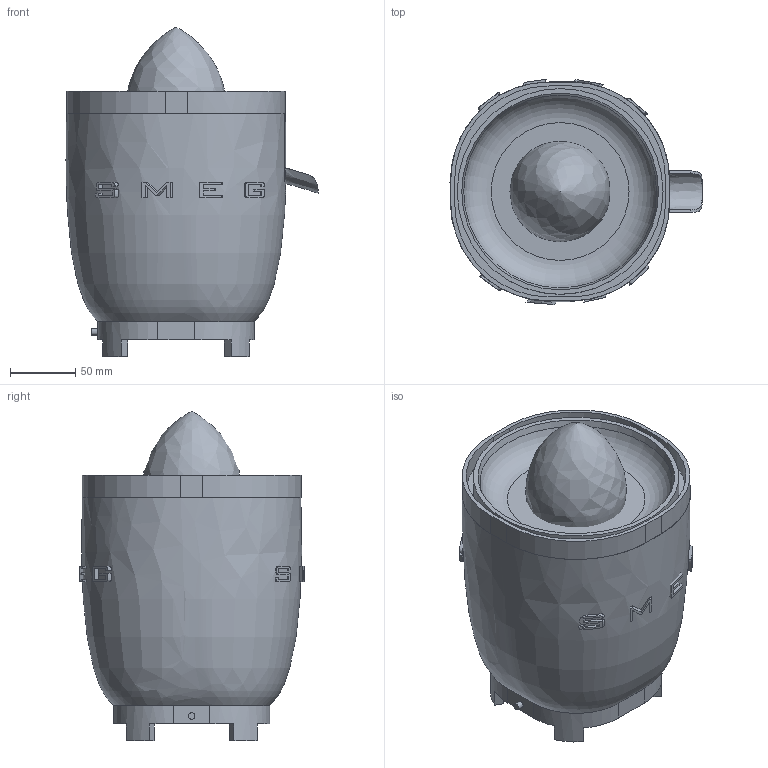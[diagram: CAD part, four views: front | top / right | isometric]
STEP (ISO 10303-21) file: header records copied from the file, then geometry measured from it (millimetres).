
FILE_DESCRIPTION(/* description */ (''),/* implementation_level */ '2;1');
FILE_NAME(/* name */ 'CJF01.stp',/* time_stamp */ '2017-11-28T16:10:54+01:00',/* author */ (''),/* organization */ (''),/* preprocessor_version */ 'ST-DEVELOPER v16',/* originating_system */ 'SIEMENS PLM Software NX 11.0',/* authorisation */ '');
FILE_SCHEMA (('AUTOMOTIVE_DESIGN { 1 0 10303 214 3 1 1 1 }'));
Length unit declared in the file: millimetre
Products named in the file (1): gras49FCBBA74khr
Bounding box: 193.49 x 172.94 x 253 mm (x, y, z)
Volume: 2865158.6 mm3; surface area: 293770.7 mm2
Topology: 13 solids, 13 shells, 204 faces, 532 edges, 355 vertices
Faces by surface type: plane 145, extrusion 28, cylinder 27, bspline 2, cone 1, torus 1
Full cylindrical faces by diameter (mm): 5 x1, 145 x1, 158 x1
Entity records: 7436 total; most frequent: CARTESIAN_POINT 2761, ORIENTED_EDGE 1040, DIRECTION 736, EDGE_CURVE 520, VERTEX_POINT 351, B_SPLINE_CURVE_WITH_KNOTS 256, VECTOR 254, AXIS2_PLACEMENT_3D 241
